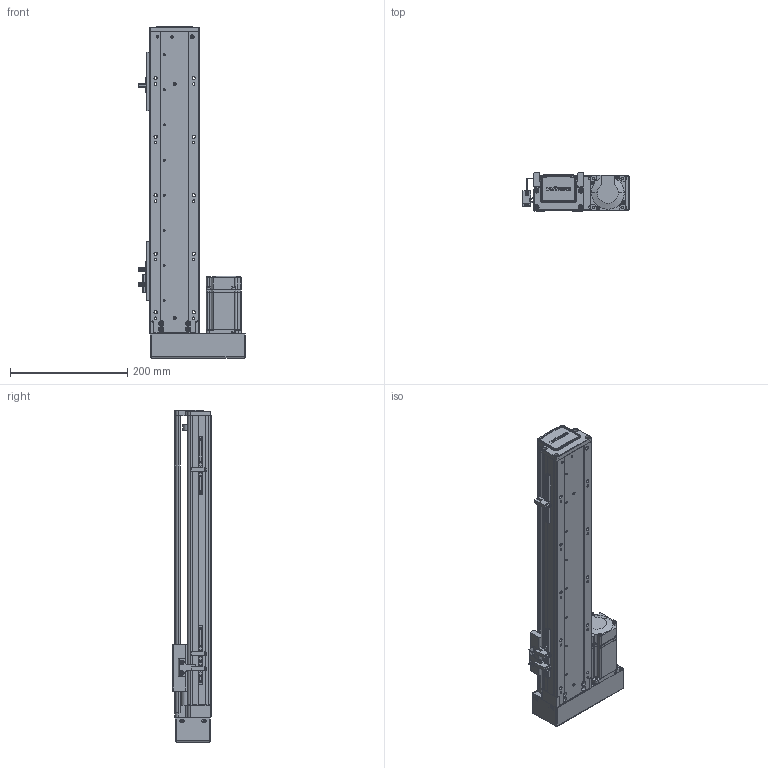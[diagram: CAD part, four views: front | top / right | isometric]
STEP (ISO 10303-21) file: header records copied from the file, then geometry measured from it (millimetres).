
FILE_DESCRIPTION (( 'STEP AP203' ), '1' );
FILE_NAME ('RY80-L1620-300-LK.SLDASM_350.step', '2021-02-20T07:16:41', ( '盈信电脑' ), ( '东莞市道滘镇水果街19号' ), 'SwSTEP 2.0', 'SolidWorks 2012', '' );
FILE_SCHEMA (( 'CONFIG_CONTROL_DESIGN' ));
Length unit declared in the file: millimetre
Products named in the file (15): RY80-L1620-300-LK.SLDASM_350; RY80俋离覜茼え; 覜茼ん672; 滅袉蝶18-24; T倰羞; 侂狟200W萇儂; RY80酘殏俋欶; RY80酘莞萇儂假蚾啣; 1; 滅袉蝶18-10; RY80綴裔啣; RY80转接电机端支撑座; RY80臏賑輸; RY80-300蛌諉倰第菁釱-LK_350; RY80-300蛌諉倰第奻裔啣-LK_350
Assembly tree (17 placements, depth 3):
  RY80-L1620-300-LK.SLDASM_350
    RY80-300蛌諉倰第菁釱-LK_350
    RY80臏賑輸
    RY80-300蛌諉倰第奻裔啣-LK_350
    RY80綴裔啣
    滅袉蝶18-10
    RY80转接电机端支撑座
    侂狟200W萇儂
      1
    RY80酘莞萇儂假蚾啣
    RY80酘殏俋欶
    覜茼ん672  x3
    T倰羞  x2
    RY80俋离覜茼え
    滅袉蝶18-24
Bounding box: 181.7 x 65 x 567 mm (x, y, z)
Volume: 1303672.4 mm3; surface area: 494011.5 mm2
Topology: 16 solids, 16 shells, 2110 faces, 5791 edges, 3749 vertices
Faces by surface type: plane 1163, cylinder 748, cone 137, bspline 62
Entity records: 66317 total; most frequent: CARTESIAN_POINT 16533, ORIENTED_EDGE 10270, DIRECTION 9634, EDGE_CURVE 5135, VERTEX_POINT 3365, VECTOR 3238, LINE 3238, AXIS2_PLACEMENT_3D 3198
